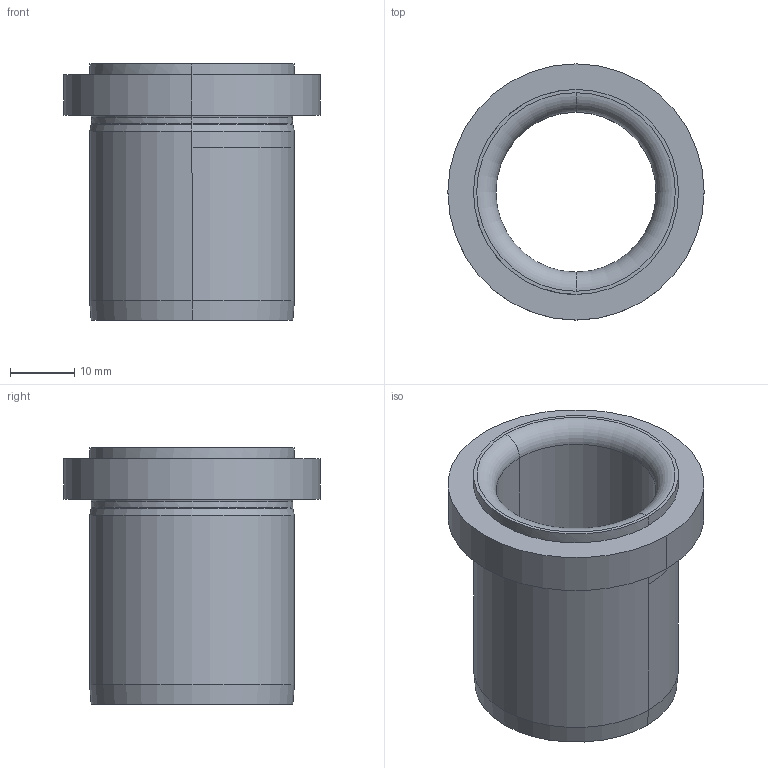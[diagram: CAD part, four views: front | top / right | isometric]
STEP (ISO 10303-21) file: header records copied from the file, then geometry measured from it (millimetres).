
FILE_DESCRIPTION(('CATIA V5 STEP'),'2;1');
FILE_NAME('\\GSBFILE\data\URETIM\3D DATALAR\Step Dosyaları\Kılavuz Elemanları\G211-02-025-040.stp','2020-07-07T05:32:42+00:00',('none'),('none'),'CATIA Version 5-6 Release 2019 SP3','CATIA V5 STEP AP203 v1','none');
FILE_SCHEMA(('CONFIG_CONTROL_DESIGN'));
Length unit declared in the file: millimetre
Products named in the file (1): Part1
Bounding box: 40 x 40 x 40 mm (x, y, z)
Volume: 15089.3 mm3; surface area: 8721.4 mm2
Topology: 1 solids, 1 shells, 29 faces, 64 edges, 39 vertices
Faces by surface type: cylinder 11, torus 8, cone 6, plane 4
Entity records: 836 total; most frequent: CARTESIAN_POINT 198, ORIENTED_EDGE 128, DIRECTION 100, EDGE_CURVE 64, AXIS2_PLACEMENT_3D 59, VERTEX_POINT 39, CIRCLE 38, EDGE_LOOP 33
